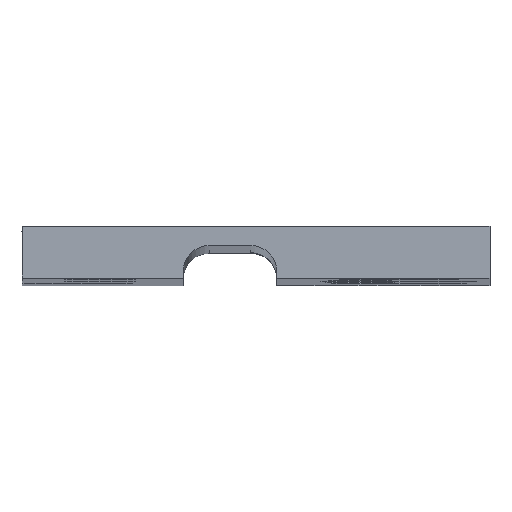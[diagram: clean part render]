
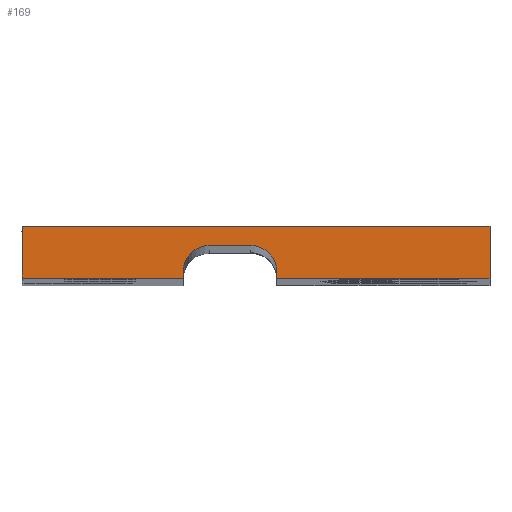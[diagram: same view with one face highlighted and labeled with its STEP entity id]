
A CAD part, top view. The second image highlights one B-rep face of the part: STEP entity #169.
In plain terms, the highlighted planar face has unit normal (0, 0, 1).
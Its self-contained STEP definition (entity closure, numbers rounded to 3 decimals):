
#169=ADVANCED_FACE('',(#204),#185,.T.);
#185=PLANE('',#908);
#204=FACE_OUTER_BOUND('',#289,.T.);
#289=EDGE_LOOP('',(#527,#528,#529,#530,#531,#532,#533,#534,#535,#536));
#293=CIRCLE('',#826,1.);
#295=CIRCLE('',#829,1.);
#527=ORIENTED_EDGE('',*,*,#711,.F.);
#528=ORIENTED_EDGE('',*,*,#708,.F.);
#529=ORIENTED_EDGE('',*,*,#633,.F.);
#530=ORIENTED_EDGE('',*,*,#621,.F.);
#531=ORIENTED_EDGE('',*,*,#637,.F.);
#532=ORIENTED_EDGE('',*,*,#641,.F.);
#533=ORIENTED_EDGE('',*,*,#645,.F.);
#534=ORIENTED_EDGE('',*,*,#707,.F.);
#535=ORIENTED_EDGE('',*,*,#666,.F.);
#536=ORIENTED_EDGE('',*,*,#687,.F.);
#537=VERTEX_POINT('',#1146);
#546=VERTEX_POINT('',#1163);
#555=VERTEX_POINT('',#1189);
#557=VERTEX_POINT('',#1195);
#559=VERTEX_POINT('',#1203);
#561=VERTEX_POINT('',#1211);
#578=VERTEX_POINT('',#1252);
#579=VERTEX_POINT('',#1254);
#595=VERTEX_POINT('',#1292);
#611=VERTEX_POINT('',#1355);
#621=EDGE_CURVE('',#546,#537,#720,.T.);
#633=EDGE_CURVE('',#537,#555,#293,.T.);
#637=EDGE_CURVE('',#557,#546,#295,.T.);
#641=EDGE_CURVE('',#559,#557,#734,.T.);
#645=EDGE_CURVE('',#561,#559,#738,.T.);
#666=EDGE_CURVE('',#578,#579,#745,.T.);
#687=EDGE_CURVE('',#595,#578,#753,.T.);
#707=EDGE_CURVE('',#579,#561,#760,.T.);
#708=EDGE_CURVE('',#555,#611,#761,.T.);
#711=EDGE_CURVE('',#611,#595,#764,.T.);
#720=LINE('',#1164,#773);
#734=LINE('',#1204,#787);
#738=LINE('',#1212,#791);
#745=LINE('',#1253,#798);
#753=LINE('',#1293,#806);
#760=LINE('',#1352,#813);
#761=LINE('',#1354,#814);
#764=LINE('',#1359,#817);
#773=VECTOR('',#921,1.);
#787=VECTOR('',#961,1.);
#791=VECTOR('',#969,1.);
#798=VECTOR('',#1010,1.);
#806=VECTOR('',#1048,1.);
#813=VECTOR('',#1129,1.);
#814=VECTOR('',#1132,1.);
#817=VECTOR('',#1137,1.);
#826=AXIS2_PLACEMENT_3D('',#1188,#943,#944);
#829=AXIS2_PLACEMENT_3D('',#1196,#951,#952);
#908=AXIS2_PLACEMENT_3D('',#1362,#1142,#1143);
#921=DIRECTION('',(-1.,0.,0.));
#943=DIRECTION('',(0.,0.,1.));
#944=DIRECTION('',(0.,1.,0.));
#951=DIRECTION('',(0.,0.,1.));
#952=DIRECTION('',(1.,0.,0.));
#961=DIRECTION('',(0.,1.,0.));
#969=DIRECTION('',(-1.,0.,0.));
#1010=DIRECTION('',(1.,0.,0.));
#1048=DIRECTION('',(0.,1.,0.));
#1129=DIRECTION('',(0.,-1.,0.));
#1132=DIRECTION('',(0.,-1.,0.));
#1137=DIRECTION('',(-1.,0.,0.));
#1142=DIRECTION('',(0.,0.,1.));
#1143=DIRECTION('',(0.,1.,0.));
#1146=CARTESIAN_POINT('',(32.7,19.35,175.05));
#1163=CARTESIAN_POINT('',(34.3,19.35,175.05));
#1164=CARTESIAN_POINT('',(34.4,19.35,175.05));
#1188=CARTESIAN_POINT('',(32.7,18.35,175.05));
#1189=CARTESIAN_POINT('',(31.7,18.35,175.05));
#1195=CARTESIAN_POINT('',(35.3,18.35,175.05));
#1196=CARTESIAN_POINT('',(34.3,18.35,175.05));
#1203=CARTESIAN_POINT('',(35.3,18.1,175.05));
#1204=CARTESIAN_POINT('',(35.3,9.179,175.05));
#1211=CARTESIAN_POINT('',(43.5,18.1,175.05));
#1212=CARTESIAN_POINT('',(39.,18.1,175.05));
#1252=CARTESIAN_POINT('',(25.5,20.1,175.05));
#1253=CARTESIAN_POINT('',(29.,20.1,175.05));
#1254=CARTESIAN_POINT('',(43.5,20.1,175.05));
#1292=CARTESIAN_POINT('',(25.5,18.1,175.05));
#1293=CARTESIAN_POINT('',(25.5,9.179,175.05));
#1352=CARTESIAN_POINT('',(43.5,10.179,175.05));
#1354=CARTESIAN_POINT('',(31.7,9.304,175.05));
#1355=CARTESIAN_POINT('',(31.7,18.1,175.05));
#1359=CARTESIAN_POINT('',(33.1,18.1,175.05));
#1362=CARTESIAN_POINT('',(34.5,0.257,175.05));
